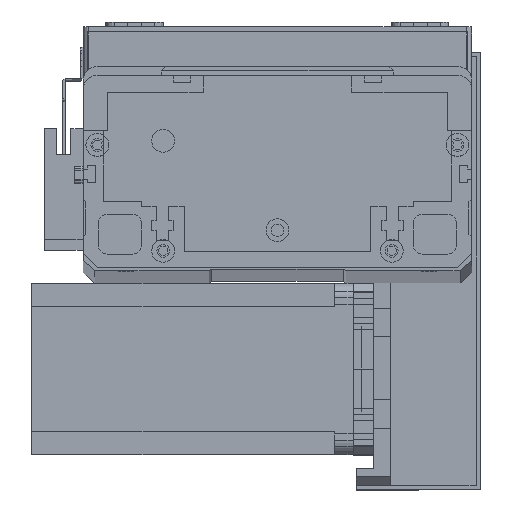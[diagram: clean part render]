
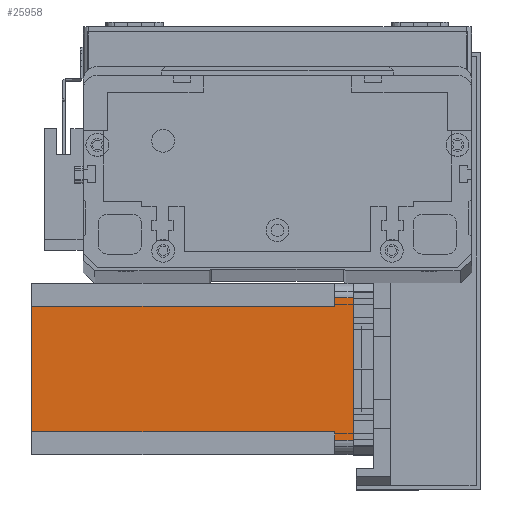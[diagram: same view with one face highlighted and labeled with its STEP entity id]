
A CAD part, top view. The second image highlights one B-rep face of the part: STEP entity #25958.
In plain terms, the highlighted planar face has unit normal (0, 0, 1) as drawn and (0, -1, 0) by its records, which use the part's own axes.
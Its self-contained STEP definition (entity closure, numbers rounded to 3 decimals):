
#217 = ORIENTED_EDGE ( 'NONE', *, *, #6910, .T. ) ;
#963 = DIRECTION ( 'NONE',  ( 0., -1., 0. ) ) ;
#1209 = CARTESIAN_POINT ( 'NONE',  ( 8., 0., -112.5 ) ) ;
#1224 = LINE ( 'NONE', #12902, #19507 ) ;
#1416 = CARTESIAN_POINT ( 'NONE',  ( 8., 0., -6.5 ) ) ;
#1516 = DIRECTION ( 'NONE',  ( 0., 0., 1. ) ) ;
#1649 = CARTESIAN_POINT ( 'NONE',  ( 0., 0., 0. ) ) ;
#1755 = LINE ( 'NONE', #1209, #25511 ) ;
#1922 = CARTESIAN_POINT ( 'NONE',  ( 52., 0., -112.5 ) ) ;
#2714 = CARTESIAN_POINT ( 'NONE',  ( 52., 0., -112.5 ) ) ;
#3396 = VERTEX_POINT ( 'NONE', #16891 ) ;
#3878 = AXIS2_PLACEMENT_3D ( 'NONE', #26994, #963, #17716 ) ;
#4863 = EDGE_CURVE ( 'NONE', #13225, #25289, #1755, .T. ) ;
#4924 = VERTEX_POINT ( 'NONE', #26658 ) ;
#5865 = VECTOR ( 'NONE', #30582, 1000. ) ;
#6139 = CARTESIAN_POINT ( 'NONE',  ( 8., 0., -112.5 ) ) ;
#6595 = DIRECTION ( 'NONE',  ( 1., 0., 0. ) ) ;
#6910 = EDGE_CURVE ( 'NONE', #30015, #26746, #29408, .T. ) ;
#7562 = ORIENTED_EDGE ( 'NONE', *, *, #30411, .T. ) ;
#7805 = VECTOR ( 'NONE', #13426, 1000. ) ;
#8032 = ORIENTED_EDGE ( 'NONE', *, *, #24905, .F. ) ;
#9990 = VECTOR ( 'NONE', #18043, 1000. ) ;
#10454 = VECTOR ( 'NONE', #13653, 1000. ) ;
#11740 = VERTEX_POINT ( 'NONE', #1922 ) ;
#11952 = EDGE_LOOP ( 'NONE', ( #7562, #20288, #8032, #217, #20421, #19684, #29494, #27356 ) ) ;
#12902 = CARTESIAN_POINT ( 'NONE',  ( 52., 0., -6.5 ) ) ;
#13199 = VERTEX_POINT ( 'NONE', #27184 ) ;
#13225 = VERTEX_POINT ( 'NONE', #6139 ) ;
#13235 = CARTESIAN_POINT ( 'NONE',  ( 5., 0., -112.5 ) ) ;
#13356 = VECTOR ( 'NONE', #21731, 1000. ) ;
#13426 = DIRECTION ( 'NONE',  ( -1., 0., 0. ) ) ;
#13653 = DIRECTION ( 'NONE',  ( 1., 0., 0. ) ) ;
#13691 = EDGE_CURVE ( 'NONE', #3396, #11740, #19577, .T. ) ;
#14107 = EDGE_CURVE ( 'NONE', #13225, #11740, #22489, .T. ) ;
#14165 = LINE ( 'NONE', #1416, #7805 ) ;
#15178 = CARTESIAN_POINT ( 'NONE',  ( 8., 0., -6.5 ) ) ;
#15320 = EDGE_CURVE ( 'NONE', #4924, #13199, #25452, .T. ) ;
#15346 = PLANE ( 'NONE',  #3878 ) ;
#16259 = VECTOR ( 'NONE', #6595, 1000. ) ;
#16891 = CARTESIAN_POINT ( 'NONE',  ( 52., 0., -6.5 ) ) ;
#17716 = DIRECTION ( 'NONE',  ( 0., 0., -1. ) ) ;
#18043 = DIRECTION ( 'NONE',  ( 0., 0., -1. ) ) ;
#19507 = VECTOR ( 'NONE', #29365, 1000. ) ;
#19577 = LINE ( 'NONE', #2714, #13356 ) ;
#19684 = ORIENTED_EDGE ( 'NONE', *, *, #4863, .F. ) ;
#20288 = ORIENTED_EDGE ( 'NONE', *, *, #15320, .T. ) ;
#20421 = ORIENTED_EDGE ( 'NONE', *, *, #25462, .F. ) ;
#21063 = FACE_OUTER_BOUND ( 'NONE', #11952, .T. ) ;
#21731 = DIRECTION ( 'NONE',  ( 0., 0., -1. ) ) ;
#22489 = LINE ( 'NONE', #25477, #16259 ) ;
#24905 = EDGE_CURVE ( 'NONE', #30015, #13199, #29870, .T. ) ;
#25289 = VERTEX_POINT ( 'NONE', #15178 ) ;
#25452 = LINE ( 'NONE', #25980, #5865 ) ;
#25462 = EDGE_CURVE ( 'NONE', #25289, #26746, #14165, .T. ) ;
#25477 = CARTESIAN_POINT ( 'NONE',  ( 0., 0., -112.5 ) ) ;
#25511 = VECTOR ( 'NONE', #1516, 1000. ) ;
#25958 = ADVANCED_FACE ( 'NONE', ( #21063 ), #15346, .T. ) ;
#25980 = CARTESIAN_POINT ( 'NONE',  ( 55., 0., -112.5 ) ) ;
#26658 = CARTESIAN_POINT ( 'NONE',  ( 55., 0., -6.5 ) ) ;
#26746 = VERTEX_POINT ( 'NONE', #27742 ) ;
#26929 = CARTESIAN_POINT ( 'NONE',  ( 5., 0., 0. ) ) ;
#26994 = CARTESIAN_POINT ( 'NONE',  ( 0., 0., -112.5 ) ) ;
#27184 = CARTESIAN_POINT ( 'NONE',  ( 55., 0., 0. ) ) ;
#27356 = ORIENTED_EDGE ( 'NONE', *, *, #13691, .F. ) ;
#27742 = CARTESIAN_POINT ( 'NONE',  ( 5., 0., -6.5 ) ) ;
#29365 = DIRECTION ( 'NONE',  ( 1., 0., 0. ) ) ;
#29408 = LINE ( 'NONE', #13235, #9990 ) ;
#29494 = ORIENTED_EDGE ( 'NONE', *, *, #14107, .T. ) ;
#29870 = LINE ( 'NONE', #1649, #10454 ) ;
#30015 = VERTEX_POINT ( 'NONE', #26929 ) ;
#30411 = EDGE_CURVE ( 'NONE', #3396, #4924, #1224, .T. ) ;
#30582 = DIRECTION ( 'NONE',  ( 0., 0., 1. ) ) ;
